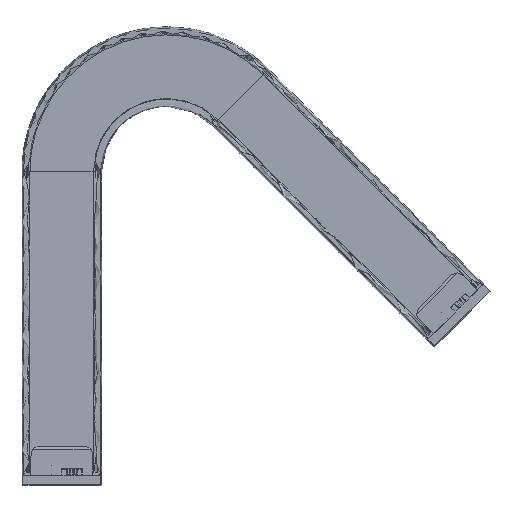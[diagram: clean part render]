
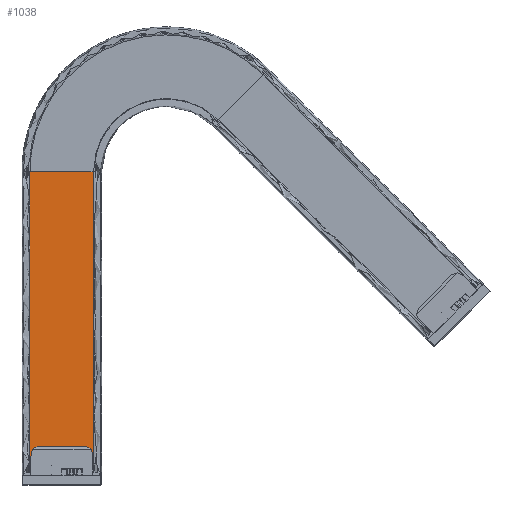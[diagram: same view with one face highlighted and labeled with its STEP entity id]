
A CAD part, top view. The second image highlights one B-rep face of the part: STEP entity #1038.
In plain terms, the highlighted free-form (B-spline) face has degree [1, 3] with [2, 4] control points.
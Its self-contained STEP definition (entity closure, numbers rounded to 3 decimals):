
#1038=ADVANCED_FACE('',(#2960),#68506,.T.);
#2960=FACE_OUTER_BOUND('',#4925,.T.);
#4925=EDGE_LOOP('',(#10888,#10889,#10890,#10891));
#10888=ORIENTED_EDGE('',*,*,#46457,.T.);
#10889=ORIENTED_EDGE('',*,*,#46458,.T.);
#10890=ORIENTED_EDGE('',*,*,#46448,.F.);
#10891=ORIENTED_EDGE('',*,*,#46455,.F.);
#22598=PCURVE('',#68502,#33110);
#22608=PCURVE('',#68505,#33120);
#22611=PCURVE('',#68506,#33123);
#22612=PCURVE('',#68506,#33124);
#22613=PCURVE('',#68506,#33125);
#22614=PCURVE('',#68506,#33126);
#22618=PCURVE('',#68507,#33130);
#22625=PCURVE('',#68509,#33137);
#33110=DEFINITIONAL_REPRESENTATION('',(#56159),#169664);
#33120=DEFINITIONAL_REPRESENTATION('',(#56176),#169664);
#33123=DEFINITIONAL_REPRESENTATION('',(#56181),#169664);
#33124=DEFINITIONAL_REPRESENTATION('',(#56183),#169664);
#33125=DEFINITIONAL_REPRESENTATION('',(#56184),#169664);
#33126=DEFINITIONAL_REPRESENTATION('',(#56185),#169664);
#33130=DEFINITIONAL_REPRESENTATION('',(#56191),#169664);
#33137=DEFINITIONAL_REPRESENTATION('',(#56199),#169664);
#41192=SURFACE_CURVE('',#56158,(#22598,#22613),.PCURVE_S1.);
#41199=SURFACE_CURVE('',#56175,(#22608,#22614),.PCURVE_S1.);
#41201=SURFACE_CURVE('',#56180,(#22611,#22625),.PCURVE_S1.);
#41202=SURFACE_CURVE('',#56182,(#22612,#22618),.PCURVE_S1.);
#46448=EDGE_CURVE('',#65393,#65396,#41192,.T.);
#46455=EDGE_CURVE('',#65402,#65393,#41199,.T.);
#46457=EDGE_CURVE('',#65402,#65403,#41201,.T.);
#46458=EDGE_CURVE('',#65403,#65396,#41202,.T.);
#56158=B_SPLINE_CURVE_WITH_KNOTS('',1,(#111073,#111074),.UNSPECIFIED.,.F.,
 .F.,(2,2),(0.,51.),.UNSPECIFIED.);
#56159=B_SPLINE_CURVE_WITH_KNOTS('',1,(#111075,#111076),.UNSPECIFIED.,.F.,
 .F.,(2,2),(0.,51.),.UNSPECIFIED.);
#56175=B_SPLINE_CURVE_WITH_KNOTS('',3,(#111126,#111127,#111128,#111129),
 .UNSPECIFIED.,.F.,.F.,(4,4),(8.,210.),.UNSPECIFIED.);
#56176=B_SPLINE_CURVE_WITH_KNOTS('',1,(#111130,#111131),.UNSPECIFIED.,.F.,
 .F.,(2,2),(8.,210.),.UNSPECIFIED.);
#56180=B_SPLINE_CURVE_WITH_KNOTS('',1,(#111140,#111141),.UNSPECIFIED.,.F.,
 .F.,(2,2),(0.,51.),.UNSPECIFIED.);
#56181=B_SPLINE_CURVE_WITH_KNOTS('',1,(#111142,#111143),.UNSPECIFIED.,.F.,
 .F.,(2,2),(0.,51.),.UNSPECIFIED.);
#56182=B_SPLINE_CURVE_WITH_KNOTS('',3,(#111144,#111145,#111146,#111147),
 .UNSPECIFIED.,.F.,.F.,(4,4),(8.,210.),.UNSPECIFIED.);
#56183=B_SPLINE_CURVE_WITH_KNOTS('',1,(#111148,#111149),.UNSPECIFIED.,.F.,
 .F.,(2,2),(8.,210.),.UNSPECIFIED.);
#56184=B_SPLINE_CURVE_WITH_KNOTS('',1,(#111150,#111151),.UNSPECIFIED.,.F.,
 .F.,(2,2),(0.,51.),.UNSPECIFIED.);
#56185=B_SPLINE_CURVE_WITH_KNOTS('',1,(#111152,#111153),.UNSPECIFIED.,.F.,
 .F.,(2,2),(8.,210.),.UNSPECIFIED.);
#56191=B_SPLINE_CURVE_WITH_KNOTS('',1,(#111166,#111167),.UNSPECIFIED.,.F.,
 .F.,(2,2),(8.,210.),.UNSPECIFIED.);
#56199=B_SPLINE_CURVE_WITH_KNOTS('',1,(#111182,#111183),.UNSPECIFIED.,.F.,
 .F.,(2,2),(0.,51.),.UNSPECIFIED.);
#65393=VERTEX_POINT('',#110980);
#65396=VERTEX_POINT('',#110983);
#65402=VERTEX_POINT('',#110989);
#65403=VERTEX_POINT('',#110990);
#68502=B_SPLINE_SURFACE_WITH_KNOTS('',1,3,((#110794,#110795,#110796,#110797,
#110798,#110799,#110800,#110801,#110802,#110803,#110804,#110805,#110806,
#110807,#110808,#110809,#110810,#110811,#110812),(#110813,#110814,#110815,
#110816,#110817,#110818,#110819,#110820,#110821,#110822,#110823,#110824,
#110825,#110826,#110827,#110828,#110829,#110830,#110831)),.UNSPECIFIED.,
 .F.,.F.,.F.,(2,2),(4,1,1,1,1,1,1,1,1,1,1,1,1,1,1,1,4),(0.,51.),(0.,14.164,
28.8,43.766,58.905,74.043,89.01,
103.645,117.81,131.974,146.609,161.576,
176.714,191.853,206.82,221.455,235.619),
 .UNSPECIFIED.);
#68505=B_SPLINE_SURFACE_WITH_KNOTS('',1,3,((#110908,#110909,#110910,#110911),
(#110912,#110913,#110914,#110915)),.UNSPECIFIED.,.F.,.F.,.F.,(2,2),(4,4),
(103.2,104.4),(0.,210.),.UNSPECIFIED.);
#68506=B_SPLINE_SURFACE_WITH_KNOTS('',1,3,((#110916,#110917,#110918,#110919),
(#110920,#110921,#110922,#110923)),.UNSPECIFIED.,.F.,.F.,.F.,(2,2),(4,4),
(0.,51.),(0.,210.),.UNSPECIFIED.);
#68507=B_SPLINE_SURFACE_WITH_KNOTS('',1,3,((#110924,#110925,#110926,#110927),
(#110928,#110929,#110930,#110931)),.UNSPECIFIED.,.F.,.F.,.F.,(2,2),(4,4),
(51.,52.2),(0.,210.),.UNSPECIFIED.);
#68509=B_SPLINE_SURFACE_WITH_KNOTS('',1,1,((#110940,#110941),(#110942,#110943)),
 .UNSPECIFIED.,.F.,.F.,.F.,(2,2),(2,2),(0.,49.),(0.,45.808),
 .UNSPECIFIED.);
#110794=CARTESIAN_POINT('',(-23.,210.,62.937));
#110795=CARTESIAN_POINT('',(-23.,214.509,62.937));
#110796=CARTESIAN_POINT('',(-22.35,223.677,62.937));
#110797=CARTESIAN_POINT('',(-19.372,237.325,62.937));
#110798=CARTESIAN_POINT('',(-14.302,250.678,62.937));
#110799=CARTESIAN_POINT('',(-7.209,263.26,62.937));
#110800=CARTESIAN_POINT('',(1.701,274.629,62.937));
#110801=CARTESIAN_POINT('',(12.096,284.421,62.937));
#110802=CARTESIAN_POINT('',(23.567,292.396,62.937));
#110803=CARTESIAN_POINT('',(35.831,298.526,62.937));
#110804=CARTESIAN_POINT('',(48.839,302.864,62.937));
#110805=CARTESIAN_POINT('',(62.587,305.335,62.937));
#110806=CARTESIAN_POINT('',(76.864,305.762,62.937));
#110807=CARTESIAN_POINT('',(91.202,304.023,62.937));
#110808=CARTESIAN_POINT('',(105.116,300.142,62.937));
#110809=CARTESIAN_POINT('',(118.141,294.285,62.937));
#110810=CARTESIAN_POINT('',(129.898,286.739,62.937));
#110811=CARTESIAN_POINT('',(136.84,280.717,62.937));
#110812=CARTESIAN_POINT('',(140.029,277.529,62.937));
#110813=CARTESIAN_POINT('',(23.,210.,62.937));
#110814=CARTESIAN_POINT('',(23.,212.337,62.937));
#110815=CARTESIAN_POINT('',(23.337,217.089,62.937));
#110816=CARTESIAN_POINT('',(24.881,224.163,62.937));
#110817=CARTESIAN_POINT('',(27.508,231.085,62.937));
#110818=CARTESIAN_POINT('',(31.185,237.606,62.937));
#110819=CARTESIAN_POINT('',(35.803,243.499,62.937));
#110820=CARTESIAN_POINT('',(41.191,248.574,62.937));
#110821=CARTESIAN_POINT('',(47.137,252.708,62.937));
#110822=CARTESIAN_POINT('',(53.494,255.885,62.937));
#110823=CARTESIAN_POINT('',(60.236,258.133,62.937));
#110824=CARTESIAN_POINT('',(67.362,259.415,62.937));
#110825=CARTESIAN_POINT('',(74.762,259.636,62.937));
#110826=CARTESIAN_POINT('',(82.194,258.735,62.937));
#110827=CARTESIAN_POINT('',(89.405,256.723,62.937));
#110828=CARTESIAN_POINT('',(96.157,253.687,62.937));
#110829=CARTESIAN_POINT('',(102.251,249.776,62.937));
#110830=CARTESIAN_POINT('',(105.849,246.655,62.937));
#110831=CARTESIAN_POINT('',(107.502,245.002,62.937));
#110908=CARTESIAN_POINT('',(-23.,0.,61.937));
#110909=CARTESIAN_POINT('',(-23.,70.,61.937));
#110910=CARTESIAN_POINT('',(-23.,140.,61.937));
#110911=CARTESIAN_POINT('',(-23.,210.,61.937));
#110912=CARTESIAN_POINT('',(-23.,0.,62.937));
#110913=CARTESIAN_POINT('',(-23.,70.,62.937));
#110914=CARTESIAN_POINT('',(-23.,140.,62.937));
#110915=CARTESIAN_POINT('',(-23.,210.,62.937));
#110916=CARTESIAN_POINT('',(-23.,0.,62.937));
#110917=CARTESIAN_POINT('',(-23.,70.,62.937));
#110918=CARTESIAN_POINT('',(-23.,140.,62.937));
#110919=CARTESIAN_POINT('',(-23.,210.,62.937));
#110920=CARTESIAN_POINT('',(23.,0.,62.937));
#110921=CARTESIAN_POINT('',(23.,70.,62.937));
#110922=CARTESIAN_POINT('',(23.,140.,62.937));
#110923=CARTESIAN_POINT('',(23.,210.,62.937));
#110924=CARTESIAN_POINT('',(23.,0.,62.937));
#110925=CARTESIAN_POINT('',(23.,70.,62.937));
#110926=CARTESIAN_POINT('',(23.,140.,62.937));
#110927=CARTESIAN_POINT('',(23.,210.,62.937));
#110928=CARTESIAN_POINT('',(23.,0.,61.937));
#110929=CARTESIAN_POINT('',(23.,70.,61.937));
#110930=CARTESIAN_POINT('',(23.,140.,61.937));
#110931=CARTESIAN_POINT('',(23.,210.,61.937));
#110940=CARTESIAN_POINT('',(-24.5,8.,21.123));
#110941=CARTESIAN_POINT('',(-24.5,8.,66.931));
#110942=CARTESIAN_POINT('',(24.5,8.,21.123));
#110943=CARTESIAN_POINT('',(24.5,8.,66.931));
#110980=CARTESIAN_POINT('',(-23.,210.,62.937));
#110983=CARTESIAN_POINT('',(23.,210.,62.937));
#110989=CARTESIAN_POINT('',(-23.,8.,62.937));
#110990=CARTESIAN_POINT('',(23.,8.,62.937));
#111073=CARTESIAN_POINT('',(-23.,210.,62.937));
#111074=CARTESIAN_POINT('',(23.,210.,62.937));
#111075=CARTESIAN_POINT('',(0.,0.));
#111076=CARTESIAN_POINT('',(51.,0.));
#111126=CARTESIAN_POINT('',(-23.,8.,62.937));
#111127=CARTESIAN_POINT('',(-23.,75.333,62.937));
#111128=CARTESIAN_POINT('',(-23.,142.667,62.937));
#111129=CARTESIAN_POINT('',(-23.,210.,62.937));
#111130=CARTESIAN_POINT('',(104.4,8.));
#111131=CARTESIAN_POINT('',(104.4,210.));
#111140=CARTESIAN_POINT('',(-23.,8.,62.937));
#111141=CARTESIAN_POINT('',(23.,8.,62.937));
#111142=CARTESIAN_POINT('',(0.,8.));
#111143=CARTESIAN_POINT('',(51.,8.));
#111144=CARTESIAN_POINT('',(23.,8.,62.937));
#111145=CARTESIAN_POINT('',(23.,75.333,62.937));
#111146=CARTESIAN_POINT('',(23.,142.667,62.937));
#111147=CARTESIAN_POINT('',(23.,210.,62.937));
#111148=CARTESIAN_POINT('',(51.,8.));
#111149=CARTESIAN_POINT('',(51.,210.));
#111150=CARTESIAN_POINT('',(0.,210.));
#111151=CARTESIAN_POINT('',(51.,210.));
#111152=CARTESIAN_POINT('',(0.,8.));
#111153=CARTESIAN_POINT('',(0.,210.));
#111166=CARTESIAN_POINT('',(51.,8.));
#111167=CARTESIAN_POINT('',(51.,210.));
#111182=CARTESIAN_POINT('',(1.5,41.814));
#111183=CARTESIAN_POINT('',(47.5,41.814));
#169664=(
GEOMETRIC_REPRESENTATION_CONTEXT(2)
PARAMETRIC_REPRESENTATION_CONTEXT()
REPRESENTATION_CONTEXT('pspace','')
);
